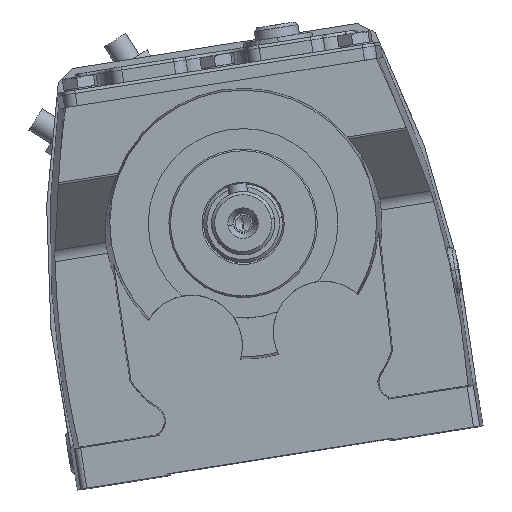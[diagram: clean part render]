
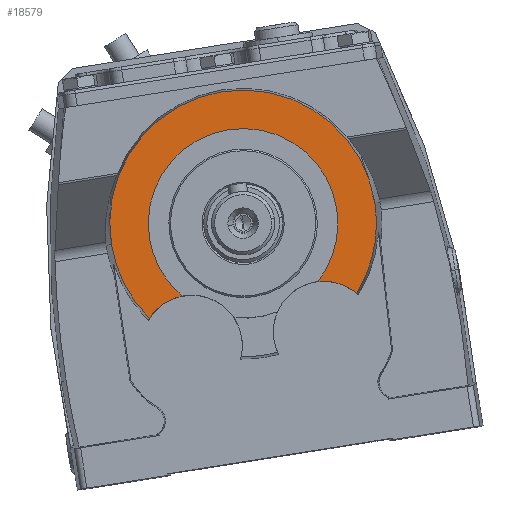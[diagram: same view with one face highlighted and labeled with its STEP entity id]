
A CAD part, top view. The second image highlights one B-rep face of the part: STEP entity #18579.
In plain terms, the highlighted planar face has unit normal (0, 0, 1).
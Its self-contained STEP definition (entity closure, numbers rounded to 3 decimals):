
#46 = DIRECTION ( 'NONE',  ( -1., 0., 0. ) ) ;
#145 = EDGE_CURVE ( 'NONE', #22071, #3929, #20765, .T. ) ;
#438 = AXIS2_PLACEMENT_3D ( 'NONE', #10809, #13133, #17485 ) ;
#1588 = CARTESIAN_POINT ( 'NONE',  ( 30., 0., 118. ) ) ;
#2163 = CIRCLE ( 'NONE', #438, 30. ) ;
#2490 = CARTESIAN_POINT ( 'NONE',  ( 0., 0., 118. ) ) ;
#2798 = VERTEX_POINT ( 'NONE', #4248 ) ;
#2824 = EDGE_CURVE ( 'NONE', #2798, #22071, #13152, .T. ) ;
#3810 = VERTEX_POINT ( 'NONE', #5920 ) ;
#3929 = VERTEX_POINT ( 'NONE', #25843 ) ;
#3932 = AXIS2_PLACEMENT_3D ( 'NONE', #5163, #21619, #13726 ) ;
#4248 = CARTESIAN_POINT ( 'NONE',  ( 20.511, -21.892, 118. ) ) ;
#4618 = AXIS2_PLACEMENT_3D ( 'NONE', #24431, #9745, #5817 ) ;
#4686 = ORIENTED_EDGE ( 'NONE', *, *, #10547, .T. ) ;
#4809 = AXIS2_PLACEMENT_3D ( 'NONE', #8017, #22699, #16180 ) ;
#4913 = AXIS2_PLACEMENT_3D ( 'NONE', #18522, #16625, #26805 ) ;
#5159 = DIRECTION ( 'NONE',  ( -1., 0., 0. ) ) ;
#5163 = CARTESIAN_POINT ( 'NONE',  ( 0., 0., 118. ) ) ;
#5455 = EDGE_CURVE ( 'NONE', #21418, #22065, #23589, .T. ) ;
#5817 = DIRECTION ( 'NONE',  ( -1., 0., 0. ) ) ;
#5920 = CARTESIAN_POINT ( 'NONE',  ( 42.212, 0., 118. ) ) ;
#5941 = CARTESIAN_POINT ( 'NONE',  ( -42.212, 0., 118. ) ) ;
#6014 = ORIENTED_EDGE ( 'NONE', *, *, #5455, .F. ) ;
#6269 = CARTESIAN_POINT ( 'NONE',  ( -22.09, -35.72, 118. ) ) ;
#7265 = EDGE_CURVE ( 'NONE', #3810, #12698, #16325, .T. ) ;
#8017 = CARTESIAN_POINT ( 'NONE',  ( 0., 0., 118. ) ) ;
#9384 = AXIS2_PLACEMENT_3D ( 'NONE', #17723, #26161, #19894 ) ;
#9745 = DIRECTION ( 'NONE',  ( 0., 0., -1. ) ) ;
#10227 = ORIENTED_EDGE ( 'NONE', *, *, #17524, .F. ) ;
#10547 = EDGE_CURVE ( 'NONE', #21418, #16415, #15284, .T. ) ;
#10809 = CARTESIAN_POINT ( 'NONE',  ( 0., 0., 118. ) ) ;
#11624 = AXIS2_PLACEMENT_3D ( 'NONE', #2490, #19080, #46 ) ;
#12497 = DIRECTION ( 'NONE',  ( -1., 0., 0. ) ) ;
#12698 = VERTEX_POINT ( 'NONE', #14350 ) ;
#13064 = EDGE_CURVE ( 'NONE', #2798, #12698, #26755, .T. ) ;
#13133 = DIRECTION ( 'NONE',  ( 0., 0., 1. ) ) ;
#13152 = CIRCLE ( 'NONE', #4913, 30. ) ;
#13726 = DIRECTION ( 'NONE',  ( -1., 0., 0. ) ) ;
#14350 = CARTESIAN_POINT ( 'NONE',  ( 32.04, -27.482, 118. ) ) ;
#14551 = DIRECTION ( 'NONE',  ( 0., 0., -1. ) ) ;
#14908 = CARTESIAN_POINT ( 'NONE',  ( -22.601, -19.728, 118. ) ) ;
#14931 = ORIENTED_EDGE ( 'NONE', *, *, #17235, .F. ) ;
#15284 = CIRCLE ( 'NONE', #17025, 16. ) ;
#15497 = CARTESIAN_POINT ( 'NONE',  ( 0., 0., 118. ) ) ;
#16180 = DIRECTION ( 'NONE',  ( 1., 0., 0. ) ) ;
#16325 = CIRCLE ( 'NONE', #4618, 42.212 ) ;
#16415 = VERTEX_POINT ( 'NONE', #14908 ) ;
#16436 = FACE_OUTER_BOUND ( 'NONE', #17756, .T. ) ;
#16492 = ORIENTED_EDGE ( 'NONE', *, *, #7265, .F. ) ;
#16625 = DIRECTION ( 'NONE',  ( 0., 0., 1. ) ) ;
#17025 = AXIS2_PLACEMENT_3D ( 'NONE', #6269, #14551, #12497 ) ;
#17235 = EDGE_CURVE ( 'NONE', #22065, #3810, #20886, .T. ) ;
#17485 = DIRECTION ( 'NONE',  ( -1., 0., 0. ) ) ;
#17512 = AXIS2_PLACEMENT_3D ( 'NONE', #15497, #17800, #5159 ) ;
#17524 = EDGE_CURVE ( 'NONE', #3929, #16415, #2163, .T. ) ;
#17723 = CARTESIAN_POINT ( 'NONE',  ( 19.88, -37.88, 118. ) ) ;
#17756 = EDGE_LOOP ( 'NONE', ( #18509, #24884, #16492, #14931, #6014, #4686, #10227, #22044 ) ) ;
#17800 = DIRECTION ( 'NONE',  ( 0., 0., -1. ) ) ;
#18509 = ORIENTED_EDGE ( 'NONE', *, *, #2824, .F. ) ;
#18522 = CARTESIAN_POINT ( 'NONE',  ( 0., 0., 118. ) ) ;
#18579 = ADVANCED_FACE ( 'NONE', ( #16436 ), #24467, .T. ) ;
#19080 = DIRECTION ( 'NONE',  ( 0., 0., 1. ) ) ;
#19894 = DIRECTION ( 'NONE',  ( -1., 0., 0. ) ) ;
#20765 = CIRCLE ( 'NONE', #11624, 30. ) ;
#20886 = CIRCLE ( 'NONE', #3932, 42.212 ) ;
#21418 = VERTEX_POINT ( 'NONE', #22352 ) ;
#21619 = DIRECTION ( 'NONE',  ( 0., 0., -1. ) ) ;
#22044 = ORIENTED_EDGE ( 'NONE', *, *, #145, .F. ) ;
#22065 = VERTEX_POINT ( 'NONE', #5941 ) ;
#22071 = VERTEX_POINT ( 'NONE', #1588 ) ;
#22352 = CARTESIAN_POINT ( 'NONE',  ( -33.992, -25.027, 118. ) ) ;
#22699 = DIRECTION ( 'NONE',  ( 0., 0., 1. ) ) ;
#23589 = CIRCLE ( 'NONE', #17512, 42.212 ) ;
#24431 = CARTESIAN_POINT ( 'NONE',  ( 0., 0., 118. ) ) ;
#24467 = PLANE ( 'NONE',  #4809 ) ;
#24884 = ORIENTED_EDGE ( 'NONE', *, *, #13064, .T. ) ;
#25843 = CARTESIAN_POINT ( 'NONE',  ( -30., 0., 118. ) ) ;
#26161 = DIRECTION ( 'NONE',  ( 0., 0., -1. ) ) ;
#26755 = CIRCLE ( 'NONE', #9384, 16. ) ;
#26805 = DIRECTION ( 'NONE',  ( -1., 0., 0. ) ) ;
